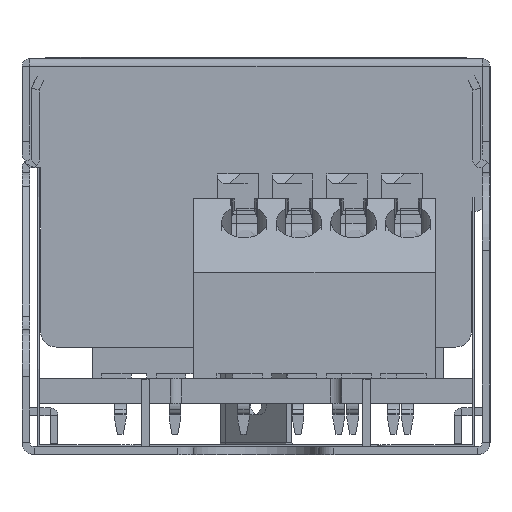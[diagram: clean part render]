
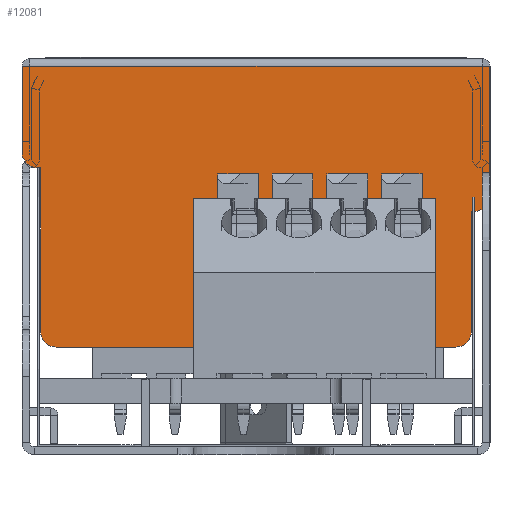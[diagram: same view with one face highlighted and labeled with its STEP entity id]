
A CAD part, left-side view. The second image highlights one B-rep face of the part: STEP entity #12081.
In plain terms, the highlighted planar face has unit normal (-1, 0, 0).
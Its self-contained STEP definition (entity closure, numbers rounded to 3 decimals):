
#10401=DIRECTION('',(0.,1.,0.));
#10402=VECTOR('',#10401,29.);
#10403=CARTESIAN_POINT('',(-113.2,-14.5,-0.5));
#10404=LINE('',#10403,#10402);
#10409=CARTESIAN_POINT('',(-113.2,14.,-6.));
#10410=DIRECTION('',(1.,0.,0.));
#10411=DIRECTION('',(0.,0.,-1.));
#10412=AXIS2_PLACEMENT_3D('',#10409,#10410,#10411);
#10414=DIRECTION('',(0.,0.,1.));
#10415=VECTOR('',#10414,5.5);
#10416=CARTESIAN_POINT('',(-113.2,15.,-6.));
#10417=LINE('',#10416,#10415);
#10418=DIRECTION('',(0.,-1.,0.));
#10419=VECTOR('',#10418,0.5);
#10420=CARTESIAN_POINT('',(-113.2,15.,-0.5));
#10421=LINE('',#10420,#10419);
#10422=DIRECTION('',(0.,-1.,0.));
#10423=VECTOR('',#10422,0.5);
#10424=CARTESIAN_POINT('',(-113.2,-14.5,-0.5));
#10425=LINE('',#10424,#10423);
#10426=DIRECTION('',(0.,0.,-1.));
#10427=VECTOR('',#10426,8.3);
#10428=CARTESIAN_POINT('',(-113.2,-15.,-0.5));
#10429=LINE('',#10428,#10427);
#10430=CARTESIAN_POINT('',(-113.2,-14.,-8.8));
#10431=DIRECTION('',(1.,0.,0.));
#10432=DIRECTION('',(0.,-1.,0.));
#10433=AXIS2_PLACEMENT_3D('',#10430,#10431,#10432);
#10435=DIRECTION('',(0.,1.,0.));
#10436=VECTOR('',#10435,0.2);
#10437=CARTESIAN_POINT('',(-113.2,-14.,-9.8));
#10438=LINE('',#10437,#10436);
#10439=DIRECTION('',(0.,0.,-1.));
#10440=VECTOR('',#10439,7.7);
#10441=CARTESIAN_POINT('',(-113.2,-13.8,-9.8));
#10442=LINE('',#10441,#10440);
#10443=CARTESIAN_POINT('',(-113.2,-12.8,-17.5));
#10444=DIRECTION('',(1.,0.,0.));
#10445=DIRECTION('',(0.,-1.,0.));
#10446=AXIS2_PLACEMENT_3D('',#10443,#10444,#10445);
#10448=CARTESIAN_POINT('',(-113.2,12.8,-17.5));
#10449=DIRECTION('',(1.,0.,0.));
#10450=DIRECTION('',(0.,0.,-1.));
#10451=AXIS2_PLACEMENT_3D('',#10448,#10449,#10450);
#10453=DIRECTION('',(0.,1.,0.));
#10454=VECTOR('',#10453,0.2);
#10455=CARTESIAN_POINT('',(-113.2,13.8,-7.));
#10456=LINE('',#10455,#10454);
#10473=DIRECTION('',(0.,0.,-1.));
#10474=VECTOR('',#10473,10.5);
#10475=CARTESIAN_POINT('',(-113.2,13.8,-7.));
#10476=LINE('',#10475,#10474);
#10485=DIRECTION('',(0.,-1.,0.));
#10486=VECTOR('',#10485,25.6);
#10487=CARTESIAN_POINT('',(-113.2,12.8,-18.5));
#10488=LINE('',#10487,#10486);
#11637=CARTESIAN_POINT('',(-113.2,14.5,-0.5));
#11638=VERTEX_POINT('',#11637);
#11639=CARTESIAN_POINT('',(-113.2,-14.5,-0.5));
#11640=VERTEX_POINT('',#11639);
#11641=CARTESIAN_POINT('',(-113.2,14.,-7.));
#11642=CARTESIAN_POINT('',(-113.2,15.,-6.));
#11643=VERTEX_POINT('',#11641);
#11644=VERTEX_POINT('',#11642);
#11645=CARTESIAN_POINT('',(-113.2,15.,-0.5));
#11646=VERTEX_POINT('',#11645);
#11647=CARTESIAN_POINT('',(-113.2,-15.,-0.5));
#11648=VERTEX_POINT('',#11647);
#11649=CARTESIAN_POINT('',(-113.2,-15.,-8.8));
#11650=VERTEX_POINT('',#11649);
#11651=CARTESIAN_POINT('',(-113.2,-14.,-9.8));
#11652=VERTEX_POINT('',#11651);
#11653=CARTESIAN_POINT('',(-113.2,-13.8,-9.8));
#11654=VERTEX_POINT('',#11653);
#11655=CARTESIAN_POINT('',(-113.2,-13.8,-17.5));
#11656=VERTEX_POINT('',#11655);
#11657=CARTESIAN_POINT('',(-113.2,-12.8,-18.5));
#11658=VERTEX_POINT('',#11657);
#11659=CARTESIAN_POINT('',(-113.2,12.8,-18.5));
#11660=VERTEX_POINT('',#11659);
#11661=CARTESIAN_POINT('',(-113.2,13.8,-17.5));
#11662=VERTEX_POINT('',#11661);
#11663=CARTESIAN_POINT('',(-113.2,13.8,-7.));
#11664=VERTEX_POINT('',#11663);
#12047=CARTESIAN_POINT('',(-113.2,-14.5,0.));
#12048=DIRECTION('',(1.,0.,0.));
#12049=DIRECTION('',(0.,-1.,0.));
#12050=AXIS2_PLACEMENT_3D('',#12047,#12048,#12049);
#12051=PLANE('',#12050);
#12053=ORIENTED_EDGE('',*,*,#12052,.T.);
#12055=ORIENTED_EDGE('',*,*,#12054,.T.);
#12057=ORIENTED_EDGE('',*,*,#12056,.T.);
#12058=ORIENTED_EDGE('',*,*,#12038,.F.);
#12060=ORIENTED_EDGE('',*,*,#12059,.T.);
#12062=ORIENTED_EDGE('',*,*,#12061,.T.);
#12064=ORIENTED_EDGE('',*,*,#12063,.T.);
#12066=ORIENTED_EDGE('',*,*,#12065,.T.);
#12068=ORIENTED_EDGE('',*,*,#12067,.T.);
#12070=ORIENTED_EDGE('',*,*,#12069,.T.);
#12072=ORIENTED_EDGE('',*,*,#12071,.F.);
#12074=ORIENTED_EDGE('',*,*,#12073,.T.);
#12076=ORIENTED_EDGE('',*,*,#12075,.F.);
#12078=ORIENTED_EDGE('',*,*,#12077,.T.);
#12079=EDGE_LOOP('',(#12053,#12055,#12057,#12058,#12060,#12062,#12064,#12066,
#12068,#12070,#12072,#12074,#12076,#12078));
#12080=FACE_OUTER_BOUND('',#12079,.F.);
#12081=ADVANCED_FACE('',(#12080),#12051,.F.);
#10413=CIRCLE('',#10412,1.);
#10434=CIRCLE('',#10433,1.);
#10447=CIRCLE('',#10446,1.);
#10452=CIRCLE('',#10451,1.);
#12038=EDGE_CURVE('',#11640,#11638,#10404,.T.);
#12052=EDGE_CURVE('',#11643,#11644,#10413,.T.);
#12054=EDGE_CURVE('',#11644,#11646,#10417,.T.);
#12056=EDGE_CURVE('',#11646,#11638,#10421,.T.);
#12059=EDGE_CURVE('',#11640,#11648,#10425,.T.);
#12061=EDGE_CURVE('',#11648,#11650,#10429,.T.);
#12063=EDGE_CURVE('',#11650,#11652,#10434,.T.);
#12065=EDGE_CURVE('',#11652,#11654,#10438,.T.);
#12067=EDGE_CURVE('',#11654,#11656,#10442,.T.);
#12069=EDGE_CURVE('',#11656,#11658,#10447,.T.);
#12071=EDGE_CURVE('',#11660,#11658,#10488,.T.);
#12073=EDGE_CURVE('',#11660,#11662,#10452,.T.);
#12075=EDGE_CURVE('',#11664,#11662,#10476,.T.);
#12077=EDGE_CURVE('',#11664,#11643,#10456,.T.);
